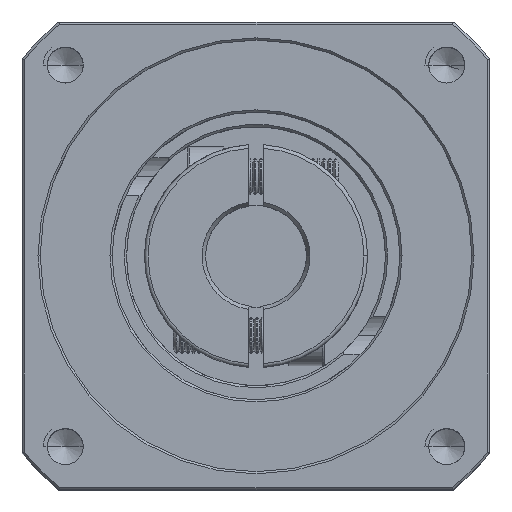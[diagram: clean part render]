
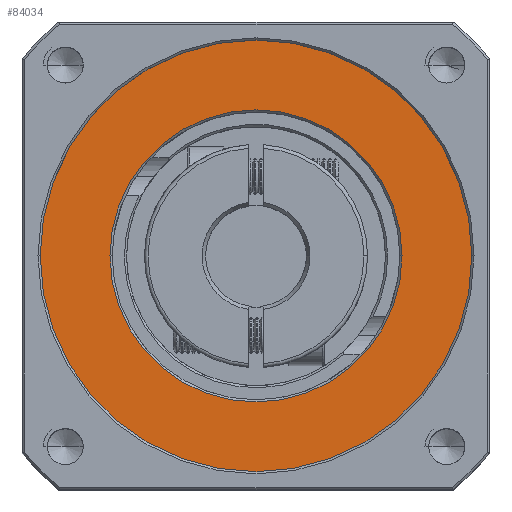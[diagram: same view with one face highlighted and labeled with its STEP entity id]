
A CAD part, top view. The second image highlights one B-rep face of the part: STEP entity #84034.
In plain terms, the highlighted planar face has unit normal (0, 0, 1).
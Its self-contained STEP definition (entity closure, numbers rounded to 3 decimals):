
#3405 = EDGE_LOOP ( 'NONE', ( #63423, #13401 ) ) ;
#4355 = DIRECTION ( 'NONE',  ( 0., 0., 1. ) ) ;
#8497 = DIRECTION ( 'NONE',  ( 1., 0., 0. ) ) ;
#8801 = CIRCLE ( 'NONE', #29154, 20.3 ) ;
#10470 = EDGE_CURVE ( 'NONE', #19045, #28266, #32257, .T. ) ;
#10958 = CARTESIAN_POINT ( 'NONE',  ( -13.269, 30.892, -1.973 ) ) ;
#13401 = ORIENTED_EDGE ( 'NONE', *, *, #10470, .T. ) ;
#17318 = EDGE_CURVE ( 'NONE', #29891, #28935, #26677, .T. ) ;
#19045 = VERTEX_POINT ( 'NONE', #79055 ) ;
#20983 = CARTESIAN_POINT ( 'NONE',  ( -43.269, 30.892, -1.973 ) ) ;
#21329 = DIRECTION ( 'NONE',  ( 1., 0., 0. ) ) ;
#22241 = CARTESIAN_POINT ( 'NONE',  ( -43.269, 30.892, -1.973 ) ) ;
#26677 = CIRCLE ( 'NONE', #109536, 20.3 ) ;
#28266 = VERTEX_POINT ( 'NONE', #10958 ) ;
#28935 = VERTEX_POINT ( 'NONE', #80575 ) ;
#29154 = AXIS2_PLACEMENT_3D ( 'NONE', #32903, #50630, #8497 ) ;
#29891 = VERTEX_POINT ( 'NONE', #103228 ) ;
#32257 = CIRCLE ( 'NONE', #59886, 30. ) ;
#32903 = CARTESIAN_POINT ( 'NONE',  ( -43.269, 30.892, -1.973 ) ) ;
#36463 = ORIENTED_EDGE ( 'NONE', *, *, #43292, .T. ) ;
#39567 = DIRECTION ( 'NONE',  ( 0., 0., 1. ) ) ;
#42394 = EDGE_LOOP ( 'NONE', ( #96532, #36463 ) ) ;
#43292 = EDGE_CURVE ( 'NONE', #28935, #29891, #8801, .T. ) ;
#44606 = CIRCLE ( 'NONE', #86070, 30. ) ;
#47161 = PLANE ( 'NONE',  #82133 ) ;
#50630 = DIRECTION ( 'NONE',  ( 0., 0., -1. ) ) ;
#59886 = AXIS2_PLACEMENT_3D ( 'NONE', #99812, #107625, #65581 ) ;
#63423 = ORIENTED_EDGE ( 'NONE', *, *, #109612, .T. ) ;
#65581 = DIRECTION ( 'NONE',  ( 1., 0., 0. ) ) ;
#71761 = DIRECTION ( 'NONE',  ( 1., 0., 0. ) ) ;
#78787 = DIRECTION ( 'NONE',  ( 0., 0., -1. ) ) ;
#79055 = CARTESIAN_POINT ( 'NONE',  ( -73.269, 30.892, -1.973 ) ) ;
#79794 = FACE_OUTER_BOUND ( 'NONE', #3405, .T. ) ;
#80575 = CARTESIAN_POINT ( 'NONE',  ( -63.569, 30.892, -1.973 ) ) ;
#82133 = AXIS2_PLACEMENT_3D ( 'NONE', #20983, #4355, #21329 ) ;
#84034 = ADVANCED_FACE ( 'NONE', ( #95659, #79794 ), #47161, .T. ) ;
#86070 = AXIS2_PLACEMENT_3D ( 'NONE', #22241, #39567, #99745 ) ;
#95659 = FACE_BOUND ( 'NONE', #42394, .T. ) ;
#96532 = ORIENTED_EDGE ( 'NONE', *, *, #17318, .T. ) ;
#99745 = DIRECTION ( 'NONE',  ( 1., 0., 0. ) ) ;
#99812 = CARTESIAN_POINT ( 'NONE',  ( -43.269, 30.892, -1.973 ) ) ;
#103228 = CARTESIAN_POINT ( 'NONE',  ( -22.969, 30.892, -1.973 ) ) ;
#104591 = CARTESIAN_POINT ( 'NONE',  ( -43.269, 30.892, -1.973 ) ) ;
#107625 = DIRECTION ( 'NONE',  ( 0., 0., 1. ) ) ;
#109536 = AXIS2_PLACEMENT_3D ( 'NONE', #104591, #78787, #71761 ) ;
#109612 = EDGE_CURVE ( 'NONE', #28266, #19045, #44606, .T. ) ;
